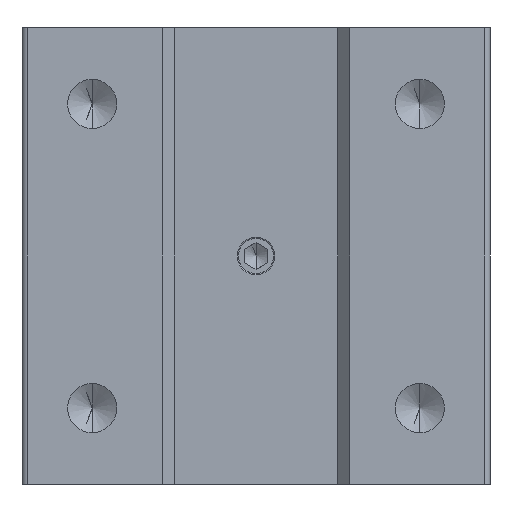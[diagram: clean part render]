
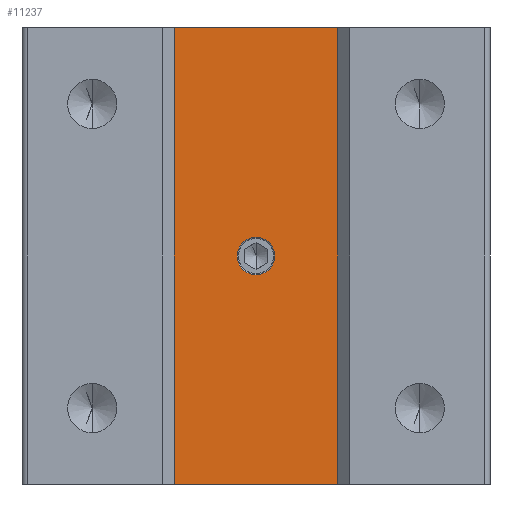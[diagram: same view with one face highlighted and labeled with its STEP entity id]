
A CAD part, front view. The second image highlights one B-rep face of the part: STEP entity #11237.
In plain terms, the highlighted planar face has unit normal (0, -1, 0).
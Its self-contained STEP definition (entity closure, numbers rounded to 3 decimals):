
#868 = ORIENTED_EDGE ( 'NONE', *, *, #5611, .T. ) ;
#1004 = PLANE ( 'NONE',  #8468 ) ;
#1228 = CARTESIAN_POINT ( 'NONE',  ( 0., -23.165, 17.9 ) ) ;
#1276 = CARTESIAN_POINT ( 'NONE',  ( -7., -23.165, 39. ) ) ;
#1971 = VERTEX_POINT ( 'NONE', #7365 ) ;
#2097 = LINE ( 'NONE', #5738, #19963 ) ;
#2131 = VECTOR ( 'NONE', #17958, 1000. ) ;
#2587 = CARTESIAN_POINT ( 'NONE',  ( 0., -23.165, 19.5 ) ) ;
#2720 = CARTESIAN_POINT ( 'NONE',  ( -7., -23.165, 39. ) ) ;
#3399 = VECTOR ( 'NONE', #17408, 1000. ) ;
#3427 = EDGE_CURVE ( 'NONE', #7407, #20036, #15084, .T. ) ;
#4069 = VERTEX_POINT ( 'NONE', #11694 ) ;
#4338 = DIRECTION ( 'NONE',  ( 0., 0., -1. ) ) ;
#4458 = ORIENTED_EDGE ( 'NONE', *, *, #3427, .F. ) ;
#5611 = EDGE_CURVE ( 'NONE', #12550, #4069, #8820, .T. ) ;
#5738 = CARTESIAN_POINT ( 'NONE',  ( -7., -23.165, 0. ) ) ;
#6225 = DIRECTION ( 'NONE',  ( 0., 0., 1. ) ) ;
#6584 = AXIS2_PLACEMENT_3D ( 'NONE', #2587, #14685, #4338 ) ;
#7365 = CARTESIAN_POINT ( 'NONE',  ( 7., -23.165, 39. ) ) ;
#7407 = VERTEX_POINT ( 'NONE', #21420 ) ;
#7843 = LINE ( 'NONE', #21372, #2131 ) ;
#8468 = AXIS2_PLACEMENT_3D ( 'NONE', #2720, #16551, #6225 ) ;
#8820 = LINE ( 'NONE', #1276, #10704 ) ;
#9312 = CARTESIAN_POINT ( 'NONE',  ( 0., -23.165, 19.5 ) ) ;
#10280 = VERTEX_POINT ( 'NONE', #22165 ) ;
#10371 = EDGE_LOOP ( 'NONE', ( #17819, #18554, #21679, #868 ) ) ;
#10635 = EDGE_CURVE ( 'NONE', #20036, #7407, #11387, .T. ) ;
#10704 = VECTOR ( 'NONE', #13379, 1000. ) ;
#11043 = DIRECTION ( 'NONE',  ( 0., 0., -1. ) ) ;
#11237 = ADVANCED_FACE ( 'NONE', ( #19993, #20532 ), #1004, .F. ) ;
#11387 = CIRCLE ( 'NONE', #6584, 1.6 ) ;
#11694 = CARTESIAN_POINT ( 'NONE',  ( -7., -23.165, 0. ) ) ;
#11701 = EDGE_CURVE ( 'NONE', #12550, #1971, #7843, .T. ) ;
#12293 = CARTESIAN_POINT ( 'NONE',  ( -7., -23.165, 39. ) ) ;
#12550 = VERTEX_POINT ( 'NONE', #12293 ) ;
#13174 = LINE ( 'NONE', #20815, #3399 ) ;
#13379 = DIRECTION ( 'NONE',  ( 0., 0., -1. ) ) ;
#14685 = DIRECTION ( 'NONE',  ( 0., -1., 0. ) ) ;
#14875 = EDGE_LOOP ( 'NONE', ( #20066, #4458 ) ) ;
#15084 = CIRCLE ( 'NONE', #18233, 1.6 ) ;
#15128 = EDGE_CURVE ( 'NONE', #4069, #10280, #2097, .T. ) ;
#16125 = EDGE_CURVE ( 'NONE', #1971, #10280, #13174, .T. ) ;
#16551 = DIRECTION ( 'NONE',  ( 0., 1., 0. ) ) ;
#17408 = DIRECTION ( 'NONE',  ( 0., 0., -1. ) ) ;
#17819 = ORIENTED_EDGE ( 'NONE', *, *, #15128, .T. ) ;
#17958 = DIRECTION ( 'NONE',  ( 1., 0., 0. ) ) ;
#18233 = AXIS2_PLACEMENT_3D ( 'NONE', #9312, #21405, #11043 ) ;
#18554 = ORIENTED_EDGE ( 'NONE', *, *, #16125, .F. ) ;
#19963 = VECTOR ( 'NONE', #21310, 1000. ) ;
#19993 = FACE_BOUND ( 'NONE', #14875, .T. ) ;
#20036 = VERTEX_POINT ( 'NONE', #1228 ) ;
#20066 = ORIENTED_EDGE ( 'NONE', *, *, #10635, .F. ) ;
#20532 = FACE_OUTER_BOUND ( 'NONE', #10371, .T. ) ;
#20815 = CARTESIAN_POINT ( 'NONE',  ( 7., -23.165, 39. ) ) ;
#21310 = DIRECTION ( 'NONE',  ( 1., 0., 0. ) ) ;
#21372 = CARTESIAN_POINT ( 'NONE',  ( -7., -23.165, 39. ) ) ;
#21405 = DIRECTION ( 'NONE',  ( 0., -1., 0. ) ) ;
#21420 = CARTESIAN_POINT ( 'NONE',  ( 0., -23.165, 21.1 ) ) ;
#21679 = ORIENTED_EDGE ( 'NONE', *, *, #11701, .F. ) ;
#22165 = CARTESIAN_POINT ( 'NONE',  ( 7., -23.165, 0. ) ) ;
